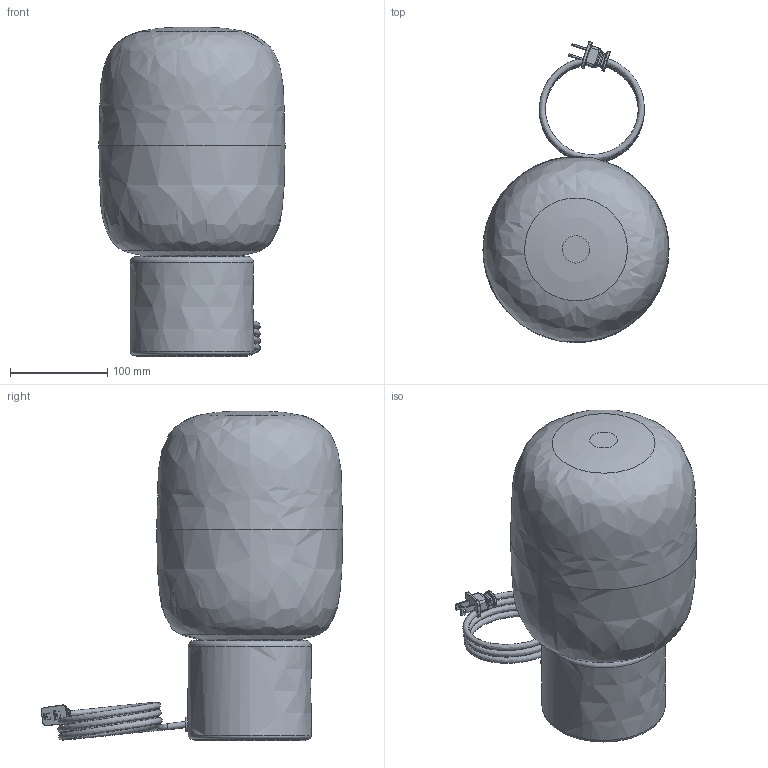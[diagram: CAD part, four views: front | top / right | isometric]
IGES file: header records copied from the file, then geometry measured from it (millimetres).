
Global section: file name: Arca Tall - Ionic Table Lamp - Opalia Collection; native system: unknown; preprocessor: unknown; author: unknown; organization: unknown; date: 20240726.153018; units: inch
Bounding box: 191.36 x 309.98 x 338.9 mm (x, y, z)
Volume: 1480364.1 mm3; surface area: 607608.3 mm2
Topology: 14 solids, 14 shells, 1984 faces, 5301 edges, 3494 vertices
Faces by surface type: bspline 1983, revolution 1
